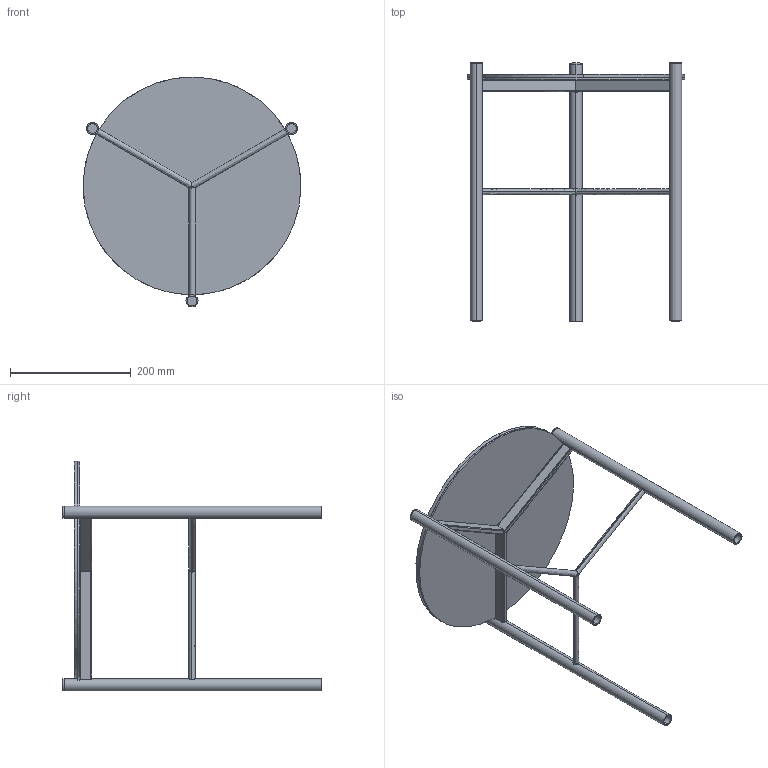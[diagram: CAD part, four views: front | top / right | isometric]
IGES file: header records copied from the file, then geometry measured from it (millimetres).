
Start section: SolidWorks IGES file using analytic representation for surfaces
Global section: file name: Y:\eforma\TECNICO\SOLIDWORKS\E-FORMA\2-TAVOLINI\JACK\02 parts\J501C.IGS; native system: SolidWorks 2022; preprocessor: SolidWorks 2022; author: eforma.tech; date: 240806.134455; units: millimetre
Bounding box: 359.95 x 427 x 380.07 mm (x, y, z)
Volume: 1104595.5 mm3; surface area: 649809.4 mm2
Topology: 14 solids, 14 shells, 125 faces, 293 edges, 194 vertices
Faces by surface type: revolution 73, plane 52
